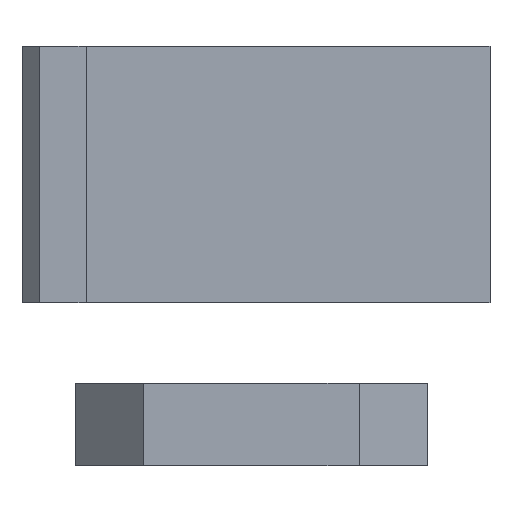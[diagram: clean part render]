
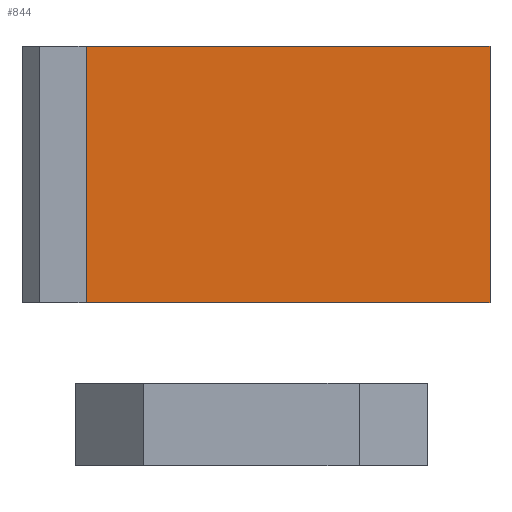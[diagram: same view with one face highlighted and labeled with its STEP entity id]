
A CAD part, front view. The second image highlights one B-rep face of the part: STEP entity #844.
In plain terms, the highlighted planar face has unit normal (0, -1, 0).
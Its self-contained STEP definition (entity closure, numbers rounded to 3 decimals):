
#844=ADVANCED_FACE('',(#2097),#2098,.T.);
#2097=FACE_OUTER_BOUND('',#3517,.T.);
#2098=PLANE('',#3518);
#3517=EDGE_LOOP('',(#7491,#7492,#7493,#7494));
#3518=AXIS2_PLACEMENT_3D('',#7495,#7496,#7497);
#7491=ORIENTED_EDGE('',*,*,#9820,.T.);
#7492=ORIENTED_EDGE('',*,*,#9821,.F.);
#7493=ORIENTED_EDGE('',*,*,#9822,.F.);
#7494=ORIENTED_EDGE('',*,*,#9818,.T.);
#7495=CARTESIAN_POINT('',(-7.5,-293.0,178.0));
#7496=DIRECTION('',(0.0,-1.0,0.0));
#7497=DIRECTION('',(1.0,0.0,-0.0));
#9818=EDGE_CURVE('',#11745,#11743,#11746,.T.);
#9820=EDGE_CURVE('',#11743,#11748,#11749,.T.);
#9821=EDGE_CURVE('',#11750,#11748,#11751,.T.);
#9822=EDGE_CURVE('',#11745,#11750,#11752,.T.);
#11743=VERTEX_POINT('',#14933);
#11745=VERTEX_POINT('',#14936);
#11746=LINE('',#14937,#14938);
#11748=VERTEX_POINT('',#14941);
#11749=LINE('',#14942,#14943);
#11750=VERTEX_POINT('',#14944);
#11751=LINE('',#14945,#14946);
#11752=LINE('',#14947,#14948);
#14933=CARTESIAN_POINT('',(213.0,-293.0,458.0));
#14936=CARTESIAN_POINT('',(213.0,-293.0,178.0));
#14937=CARTESIAN_POINT('',(213.0,-293.0,178.0));
#14938=VECTOR('',#16974,1.0);
#14941=CARTESIAN_POINT('',(-228.0,-293.0,458.0));
#14942=CARTESIAN_POINT('',(213.0,-293.0,458.0));
#14943=VECTOR('',#16976,1.0);
#14944=CARTESIAN_POINT('',(-228.0,-293.0,178.0));
#14945=CARTESIAN_POINT('',(-228.0,-293.0,178.0));
#14946=VECTOR('',#16977,1.0);
#14947=CARTESIAN_POINT('',(213.0,-293.0,178.0));
#14948=VECTOR('',#16978,1.0);
#16974=DIRECTION('',(0.0,0.0,1.0));
#16976=DIRECTION('',(-1.0,0.0,0.0));
#16977=DIRECTION('',(0.0,0.0,1.0));
#16978=DIRECTION('',(-1.0,0.0,0.0));
